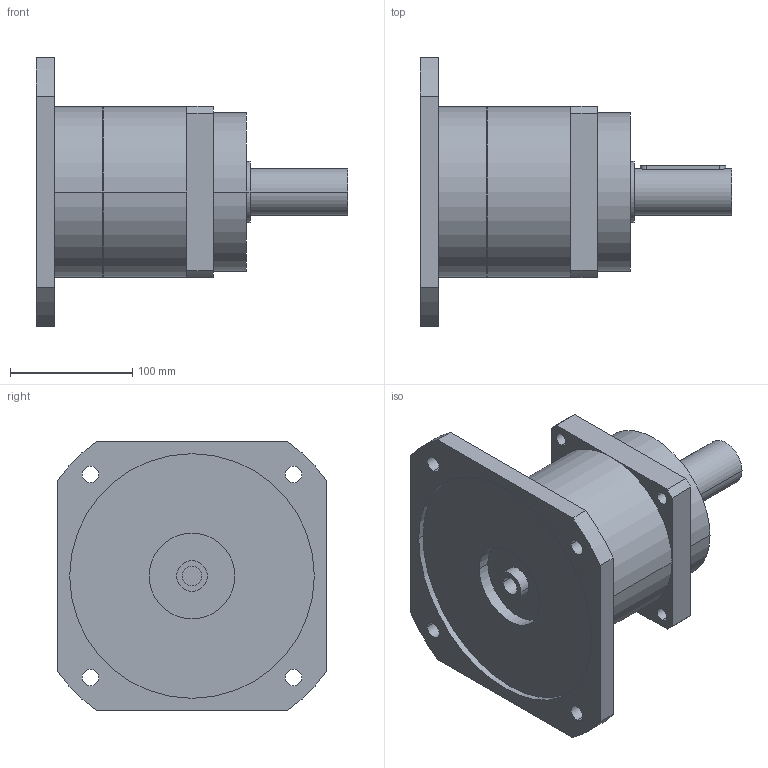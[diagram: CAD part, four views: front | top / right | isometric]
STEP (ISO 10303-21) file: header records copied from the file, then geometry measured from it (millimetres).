
FILE_DESCRIPTION(('CoCreate Modeling STEP Export'),'2;1');
FILE_NAME('GPR150_ig-3-4-5-7_38_B5_15.87_P12.stp','2014-08-19T16:41:38',(''),(''),'CoCreate Modeling STEP processor for AP214 (Solid Model)','CoCreate Modeling 16.00C 25-Feb-2009 (C) Parametric Technology GmbH','');
FILE_SCHEMA(('AUTOMOTIVE_DESIGN { 1 0 10303 214 1 1 1 1 }'));
Length unit declared in the file: millimetre
Products named in the file (2): GPR150_ig-3-4-5-7_38_B5_15.87_P12
Assembly tree (1 placements, depth 2):
  GPR150_ig-3-4-5-7_38_B5_15.87_P12
    GPR150_ig-3-4-5-7_38_B5_15.87_P12
Bounding box: 255 x 220 x 220 mm (x, y, z)
Volume: 3031259.7 mm3; surface area: 207249.5 mm2
Topology: 1 solids, 1 shells, 78 faces, 214 edges, 146 vertices
Faces by surface type: cylinder 46, plane 26, cone 6
Entity records: 2260 total; most frequent: ORIENTED_EDGE 424, CARTESIAN_POINT 421, DIRECTION 320, EDGE_CURVE 212, VERTEX_POINT 146, AXIS2_PLACEMENT_3D 117, EDGE_LOOP 104, VECTOR 86
